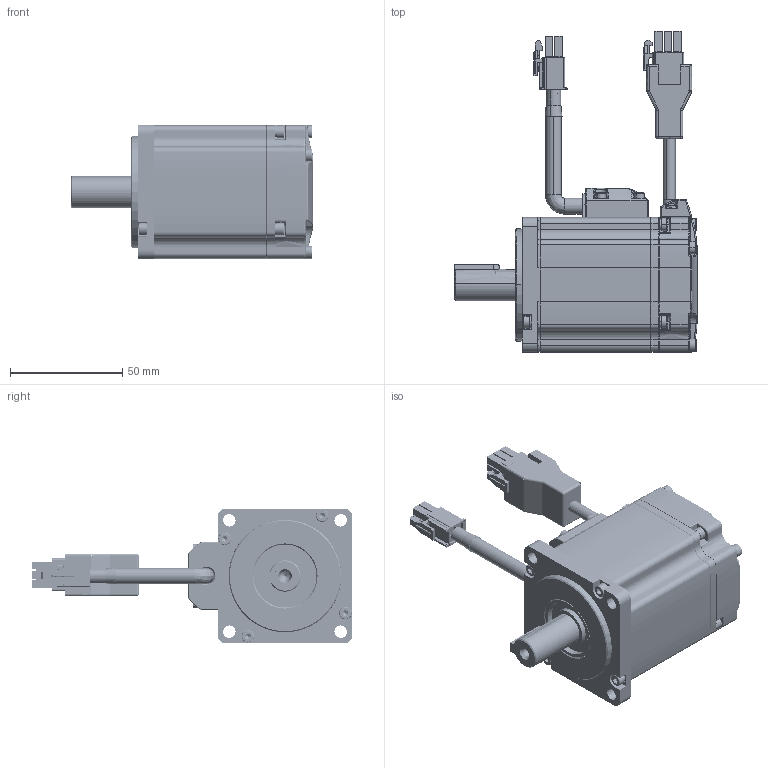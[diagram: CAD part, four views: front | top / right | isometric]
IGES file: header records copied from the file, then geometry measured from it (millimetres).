
Start section: SolidWorks IGES file using analytic representation for surfaces
Bounding box: 108 x 142.7 x 60 mm (x, y, z)
Surface area: 84910.4 mm2 (no closed solid volume)
Topology: 0 solids, 0 shells, 2412 faces, 25832 edges, 25722 vertices
Faces by surface type: bspline 1405, revolution 1007
